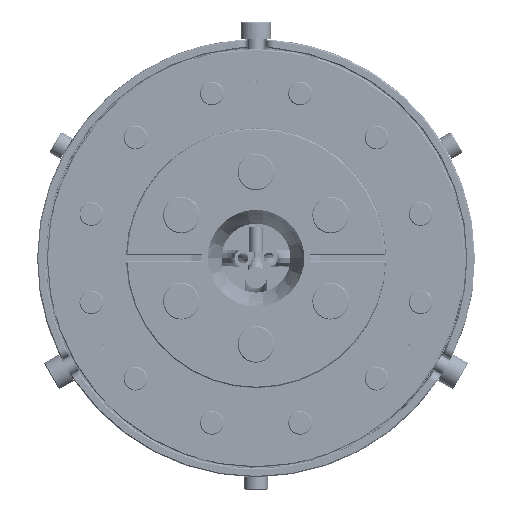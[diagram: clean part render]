
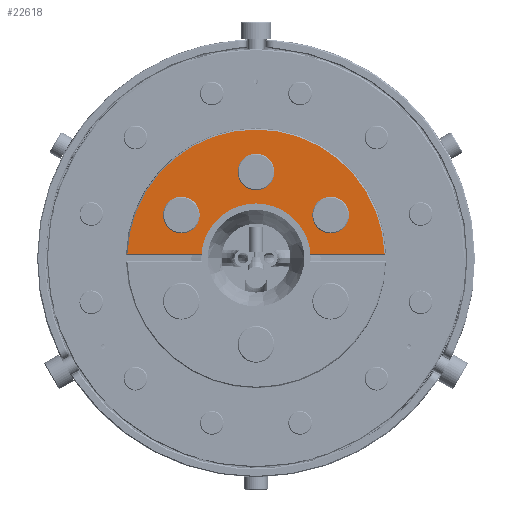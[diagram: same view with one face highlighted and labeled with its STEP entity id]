
A CAD part, front view. The second image highlights one B-rep face of the part: STEP entity #22618.
In plain terms, the highlighted planar face has unit normal (0, -1, 0).
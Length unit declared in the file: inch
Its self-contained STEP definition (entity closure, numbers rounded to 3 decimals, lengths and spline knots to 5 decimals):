
#271 = CARTESIAN_POINT ( 'NONE',  ( -1.17454, -3.47703, 0.03937 ) ) ;
#957 = LINE ( 'NONE', #119796, #90224 ) ;
#1654 = EDGE_CURVE ( 'NONE', #54093, #68311, #957, .T. ) ;
#1877 = EDGE_LOOP ( 'NONE', ( #23788, #61492, #124072, #33244 ) ) ;
#2271 = DIRECTION ( 'NONE',  ( 1., 0., 0. ) ) ;
#4992 = CIRCLE ( 'NONE', #54768, 0.11614 ) ;
#6491 = DIRECTION ( 'NONE',  ( -1., 0., 0. ) ) ;
#6610 = DIRECTION ( 'NONE',  ( -1., 0., 0. ) ) ;
#7652 = ORIENTED_EDGE ( 'NONE', *, *, #18793, .T. ) ;
#9143 = CIRCLE ( 'NONE', #17684, 0.11614 ) ;
#9783 = FACE_BOUND ( 'NONE', #78222, .T. ) ;
#10944 = CARTESIAN_POINT ( 'NONE',  ( 0.68191, -3.47703, 0.3937 ) ) ;
#11911 = DIRECTION ( 'NONE',  ( 1., 0., 0. ) ) ;
#14074 = CARTESIAN_POINT ( 'NONE',  ( 1.17454, -3.47703, 0.03937 ) ) ;
#15956 = CIRCLE ( 'NONE', #88490, 0.11614 ) ;
#17684 = AXIS2_PLACEMENT_3D ( 'NONE', #106475, #27295, #18815 ) ;
#18131 = CARTESIAN_POINT ( 'NONE',  ( 0., -3.47703, 0.7874 ) ) ;
#18259 = FACE_OUTER_BOUND ( 'NONE', #1877, .T. ) ;
#18701 = AXIS2_PLACEMENT_3D ( 'NONE', #83575, #113481, #61518 ) ;
#18793 = EDGE_CURVE ( 'NONE', #19324, #48970, #4992, .T. ) ;
#18815 = DIRECTION ( 'NONE',  ( -1., 0., 0. ) ) ;
#18905 = DIRECTION ( 'NONE',  ( 0., 1., 0. ) ) ;
#19290 = DIRECTION ( 'NONE',  ( 0., 1., 0. ) ) ;
#19324 = VERTEX_POINT ( 'NONE', #25329 ) ;
#22006 = AXIS2_PLACEMENT_3D ( 'NONE', #66960, #96787, #6610 ) ;
#22618 = ADVANCED_FACE ( 'NONE', ( #18259, #9783, #79239, #109128 ), #98072, .F. ) ;
#23788 = ORIENTED_EDGE ( 'NONE', *, *, #102935, .T. ) ;
#25329 = CARTESIAN_POINT ( 'NONE',  ( -0.56577, -3.47703, 0.3937 ) ) ;
#27295 = DIRECTION ( 'NONE',  ( 0., 1., 0. ) ) ;
#27742 = EDGE_CURVE ( 'NONE', #124972, #70464, #118250, .T. ) ;
#30093 = CARTESIAN_POINT ( 'NONE',  ( 0., -3.47703, 0. ) ) ;
#32600 = VECTOR ( 'NONE', #125214, 39.37008 ) ;
#33244 = ORIENTED_EDGE ( 'NONE', *, *, #59356, .T. ) ;
#37623 = DIRECTION ( 'NONE',  ( 0., 1., 0. ) ) ;
#38758 = DIRECTION ( 'NONE',  ( -1., 0., 0. ) ) ;
#39165 = CARTESIAN_POINT ( 'NONE',  ( 0., -3.47703, 0. ) ) ;
#40958 = CARTESIAN_POINT ( 'NONE',  ( 0.11614, -3.47703, 0.7874 ) ) ;
#42088 = DIRECTION ( 'NONE',  ( -1., 0., 0. ) ) ;
#45193 = ORIENTED_EDGE ( 'NONE', *, *, #84017, .T. ) ;
#45600 = VERTEX_POINT ( 'NONE', #127146 ) ;
#48970 = VERTEX_POINT ( 'NONE', #104518 ) ;
#49346 = VERTEX_POINT ( 'NONE', #55491 ) ;
#49542 = EDGE_CURVE ( 'NONE', #68311, #49346, #85285, .T. ) ;
#50612 = ORIENTED_EDGE ( 'NONE', *, *, #104419, .T. ) ;
#51506 = DIRECTION ( 'NONE',  ( 0., -1., 0. ) ) ;
#52488 = AXIS2_PLACEMENT_3D ( 'NONE', #10944, #99873, #42088 ) ;
#52720 = EDGE_CURVE ( 'NONE', #70464, #124972, #66908, .T. ) ;
#54093 = VERTEX_POINT ( 'NONE', #271 ) ;
#54768 = AXIS2_PLACEMENT_3D ( 'NONE', #114194, #19290, #38758 ) ;
#55059 = AXIS2_PLACEMENT_3D ( 'NONE', #39165, #51506, #69045 ) ;
#55087 = ORIENTED_EDGE ( 'NONE', *, *, #99043, .T. ) ;
#55491 = CARTESIAN_POINT ( 'NONE',  ( 0.44116, -3.47703, 0.03937 ) ) ;
#59356 = EDGE_CURVE ( 'NONE', #49346, #101073, #127112, .T. ) ;
#61492 = ORIENTED_EDGE ( 'NONE', *, *, #1654, .T. ) ;
#61518 = DIRECTION ( 'NONE',  ( -1., 0., 0. ) ) ;
#64696 = CARTESIAN_POINT ( 'NONE',  ( 0.79805, -3.47703, 0.3937 ) ) ;
#66908 = CIRCLE ( 'NONE', #52488, 0.11614 ) ;
#66960 = CARTESIAN_POINT ( 'NONE',  ( 0., -3.47703, 0.7874 ) ) ;
#68311 = VERTEX_POINT ( 'NONE', #100358 ) ;
#69045 = DIRECTION ( 'NONE',  ( 1., 0., 0. ) ) ;
#70464 = VERTEX_POINT ( 'NONE', #112598 ) ;
#74889 = AXIS2_PLACEMENT_3D ( 'NONE', #30093, #110602, #11911 ) ;
#75838 = EDGE_LOOP ( 'NONE', ( #50612, #45193 ) ) ;
#78222 = EDGE_LOOP ( 'NONE', ( #55087, #7652 ) ) ;
#79239 = FACE_BOUND ( 'NONE', #75838, .T. ) ;
#83575 = CARTESIAN_POINT ( 'NONE',  ( 0.68191, -3.47703, 0.3937 ) ) ;
#84017 = EDGE_CURVE ( 'NONE', #109042, #45600, #84174, .T. ) ;
#84174 = CIRCLE ( 'NONE', #22006, 0.11614 ) ;
#85285 = CIRCLE ( 'NONE', #74889, 0.44291 ) ;
#88490 = AXIS2_PLACEMENT_3D ( 'NONE', #18131, #37623, #6491 ) ;
#90224 = VECTOR ( 'NONE', #2271, 39.37008 ) ;
#95286 = CARTESIAN_POINT ( 'NONE',  ( 0.19599, -3.47703, 0.03937 ) ) ;
#96787 = DIRECTION ( 'NONE',  ( 0., 1., 0. ) ) ;
#98072 = PLANE ( 'NONE',  #100724 ) ;
#99043 = EDGE_CURVE ( 'NONE', #48970, #19324, #9143, .T. ) ;
#99344 = DIRECTION ( 'NONE',  ( 0., 0., -1. ) ) ;
#99873 = DIRECTION ( 'NONE',  ( 0., 1., 0. ) ) ;
#100358 = CARTESIAN_POINT ( 'NONE',  ( -0.44116, -3.47703, 0.03937 ) ) ;
#100724 = AXIS2_PLACEMENT_3D ( 'NONE', #107834, #18905, #99344 ) ;
#101073 = VERTEX_POINT ( 'NONE', #14074 ) ;
#102935 = EDGE_CURVE ( 'NONE', #101073, #54093, #111046, .T. ) ;
#104419 = EDGE_CURVE ( 'NONE', #45600, #109042, #15956, .T. ) ;
#104518 = CARTESIAN_POINT ( 'NONE',  ( -0.79805, -3.47703, 0.3937 ) ) ;
#106475 = CARTESIAN_POINT ( 'NONE',  ( -0.68191, -3.47703, 0.3937 ) ) ;
#107834 = CARTESIAN_POINT ( 'NONE',  ( 1.18504, -3.47703, 0. ) ) ;
#109042 = VERTEX_POINT ( 'NONE', #40958 ) ;
#109128 = FACE_BOUND ( 'NONE', #110556, .T. ) ;
#110556 = EDGE_LOOP ( 'NONE', ( #123282, #126795 ) ) ;
#110602 = DIRECTION ( 'NONE',  ( 0., 1., 0. ) ) ;
#111046 = CIRCLE ( 'NONE', #55059, 1.1752 ) ;
#112598 = CARTESIAN_POINT ( 'NONE',  ( 0.56577, -3.47703, 0.3937 ) ) ;
#113481 = DIRECTION ( 'NONE',  ( 0., 1., 0. ) ) ;
#114194 = CARTESIAN_POINT ( 'NONE',  ( -0.68191, -3.47703, 0.3937 ) ) ;
#118250 = CIRCLE ( 'NONE', #18701, 0.11614 ) ;
#119796 = CARTESIAN_POINT ( 'NONE',  ( 0.19599, -3.47703, 0.03937 ) ) ;
#123282 = ORIENTED_EDGE ( 'NONE', *, *, #52720, .T. ) ;
#124072 = ORIENTED_EDGE ( 'NONE', *, *, #49542, .T. ) ;
#124972 = VERTEX_POINT ( 'NONE', #64696 ) ;
#125214 = DIRECTION ( 'NONE',  ( 1., 0., 0. ) ) ;
#126795 = ORIENTED_EDGE ( 'NONE', *, *, #27742, .T. ) ;
#127112 = LINE ( 'NONE', #95286, #32600 ) ;
#127146 = CARTESIAN_POINT ( 'NONE',  ( -0.11614, -3.47703, 0.7874 ) ) ;
